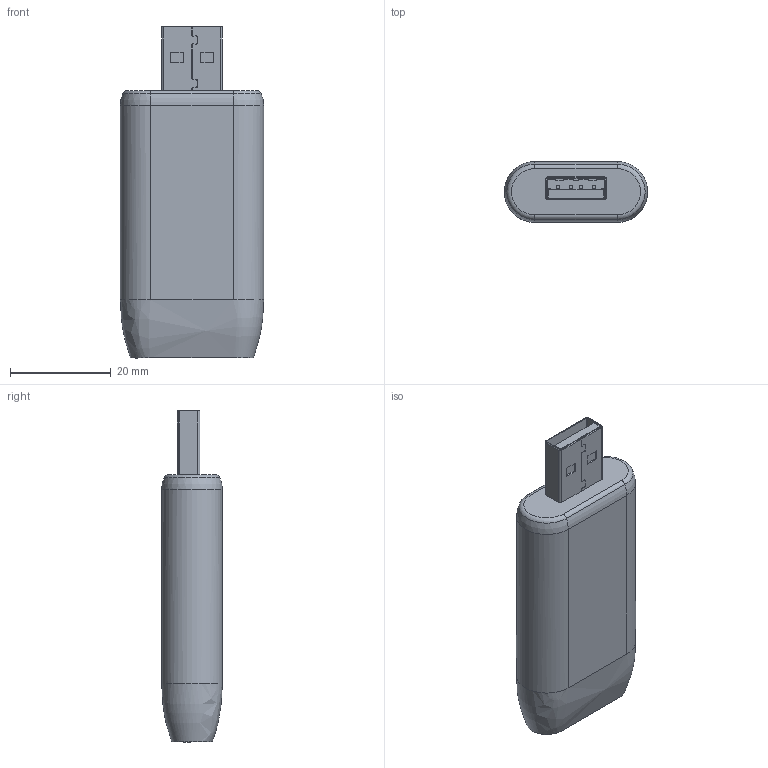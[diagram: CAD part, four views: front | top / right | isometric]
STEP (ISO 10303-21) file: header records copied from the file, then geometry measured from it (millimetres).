
FILE_DESCRIPTION(/* description */ ('Unknown'),/* implementation_level */ '2;1');
FILE_NAME(/* name */ 'Complessivo 1Y_EU catalogo pelle',/* time_stamp */ '2018-11-16T11:17:34+01:00',/* author */ ('Unknown'),/* organization */ ('Unknown'),/* preprocessor_version */ 'ST-DEVELOPER v16.7',/* originating_system */ 'DEX',/* authorisation */ $);
FILE_SCHEMA (('AUTOMOTIVE_DESIGN {1 0 10303 214 3 1 1}'));
Length unit declared in the file: millimetre
Products named in the file (1): Complessivo 1Y_EU catalogo pelle
Bounding box: 28.4 x 12 x 65.8 mm (x, y, z)
Surface area: 5983.5 mm2 (no closed solid volume)
Topology: 0 solids, 5 shells, 276 faces, 925 edges, 665 vertices
Faces by surface type: plane 186, cylinder 70, torus 12, cone 5, sphere 2, bspline 1
Full cylindrical faces by diameter (mm): 4.6 x1
Entity records: 11253 total; most frequent: CARTESIAN_POINT 2070, DIRECTION 1668, ORIENTED_EDGE 1589, EDGE_CURVE 923, LINE 708, VECTOR 708, VERTEX_POINT 665, AXIS2_PLACEMENT_3D 480
